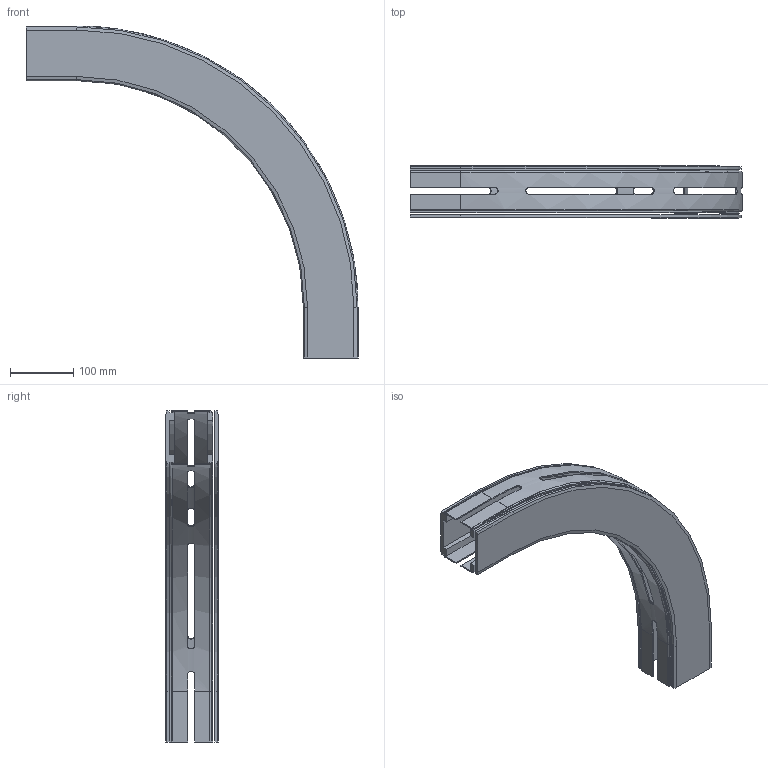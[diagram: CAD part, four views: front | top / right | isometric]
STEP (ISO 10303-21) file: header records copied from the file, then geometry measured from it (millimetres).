
FILE_DESCRIPTION(/* description */ ('GLIDKURVA SERIE 530'),/* implementation_level */ '2;1');
FILE_NAME(/* name */ '530-5375+830-2000-01.stp',/* time_stamp */ '2022-09-20T15:09:37+02:00',/* author */ ('Mathias.Dore'),/* organization */ ('CARRYLINE'),/* preprocessor_version */ 'ST-DEVELOPER v19.2',/* originating_system */ 'Autodesk Inventor 2023',/* authorisation */ '');
FILE_SCHEMA (('AUTOMOTIVE_DESIGN { 1 0 10303 214 3 1 1 }'));
Length unit declared in the file: millimetre
Products named in the file (1): 530-5375+830-2000-01
Bounding box: 523 x 82 x 523 mm (x, y, z)
Volume: 1141212.4 mm3; surface area: 546064.1 mm2
Topology: 2 solids, 2 shells, 183 faces, 506 edges, 332 vertices
Faces by surface type: plane 121, cylinder 28, bspline 26, torus 4, cone 4
Entity records: 6585 total; most frequent: CARTESIAN_POINT 1884, ORIENTED_EDGE 1012, DIRECTION 866, EDGE_CURVE 506, LINE 358, VECTOR 358, VERTEX_POINT 332, AXIS2_PLACEMENT_3D 254
